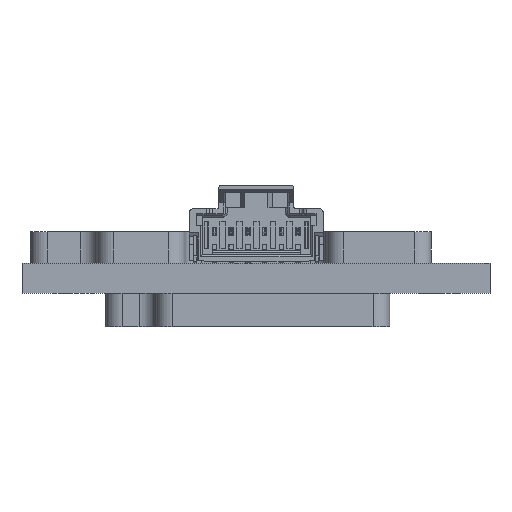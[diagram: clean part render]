
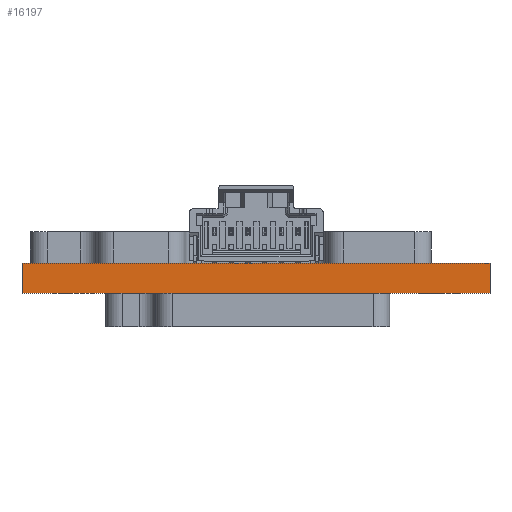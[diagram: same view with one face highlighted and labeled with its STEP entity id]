
A CAD part, front view. The second image highlights one B-rep face of the part: STEP entity #16197.
In plain terms, the highlighted planar face has unit normal (0, -1, 0).
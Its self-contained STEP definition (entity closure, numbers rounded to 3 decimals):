
#945 = EDGE_CURVE ( 'NONE', #30369, #33211, #10185, .T. ) ;
#2063 = DIRECTION ( 'NONE',  ( 0., 0., -1. ) ) ;
#2706 = CARTESIAN_POINT ( 'NONE',  ( 1.5, -1.5, 0. ) ) ;
#4007 = EDGE_CURVE ( 'NONE', #19571, #18322, #22386, .T. ) ;
#4251 = DIRECTION ( 'NONE',  ( -1., 0., 0. ) ) ;
#5772 = LINE ( 'NONE', #23889, #14417 ) ;
#5806 = CARTESIAN_POINT ( 'NONE',  ( 1.5, -1.5, -1.803 ) ) ;
#5971 = VECTOR ( 'NONE', #12029, 1000. ) ;
#6672 = VECTOR ( 'NONE', #2063, 1000. ) ;
#7685 = EDGE_CURVE ( 'NONE', #33211, #18322, #15113, .T. ) ;
#9711 = CARTESIAN_POINT ( 'NONE',  ( -26.5, -1.5, -1.803 ) ) ;
#10030 = CARTESIAN_POINT ( 'NONE',  ( -26.5, -1.5, -1.803 ) ) ;
#10185 = LINE ( 'NONE', #20519, #5971 ) ;
#10732 = DIRECTION ( 'NONE',  ( 0., 0., -1. ) ) ;
#11028 = DIRECTION ( 'NONE',  ( 0., 0., 1. ) ) ;
#12029 = DIRECTION ( 'NONE',  ( -1., 0., 0. ) ) ;
#14417 = VECTOR ( 'NONE', #11028, 1000. ) ;
#15113 = LINE ( 'NONE', #9711, #6672 ) ;
#16197 = ADVANCED_FACE ( 'NONE', ( #33035 ), #20396, .T. ) ;
#16272 = AXIS2_PLACEMENT_3D ( 'NONE', #5806, #23590, #10732 ) ;
#16557 = ORIENTED_EDGE ( 'NONE', *, *, #4007, .F. ) ;
#16756 = VECTOR ( 'NONE', #4251, 1000. ) ;
#18322 = VERTEX_POINT ( 'NONE', #10030 ) ;
#19571 = VERTEX_POINT ( 'NONE', #24805 ) ;
#20396 = PLANE ( 'NONE',  #16272 ) ;
#20519 = CARTESIAN_POINT ( 'NONE',  ( 1.5, -1.5, 0. ) ) ;
#21475 = ORIENTED_EDGE ( 'NONE', *, *, #7685, .T. ) ;
#22129 = CARTESIAN_POINT ( 'NONE',  ( -26.5, -1.5, 0. ) ) ;
#22386 = LINE ( 'NONE', #32636, #16756 ) ;
#23590 = DIRECTION ( 'NONE',  ( 0., -1., 0. ) ) ;
#23886 = EDGE_LOOP ( 'NONE', ( #21475, #16557, #31304, #28001 ) ) ;
#23889 = CARTESIAN_POINT ( 'NONE',  ( 1.5, -1.5, -1.803 ) ) ;
#24786 = EDGE_CURVE ( 'NONE', #19571, #30369, #5772, .T. ) ;
#24805 = CARTESIAN_POINT ( 'NONE',  ( 1.5, -1.5, -1.803 ) ) ;
#28001 = ORIENTED_EDGE ( 'NONE', *, *, #945, .T. ) ;
#30369 = VERTEX_POINT ( 'NONE', #2706 ) ;
#31304 = ORIENTED_EDGE ( 'NONE', *, *, #24786, .T. ) ;
#32636 = CARTESIAN_POINT ( 'NONE',  ( -12.5, -1.5, -1.803 ) ) ;
#33035 = FACE_OUTER_BOUND ( 'NONE', #23886, .T. ) ;
#33211 = VERTEX_POINT ( 'NONE', #22129 ) ;
